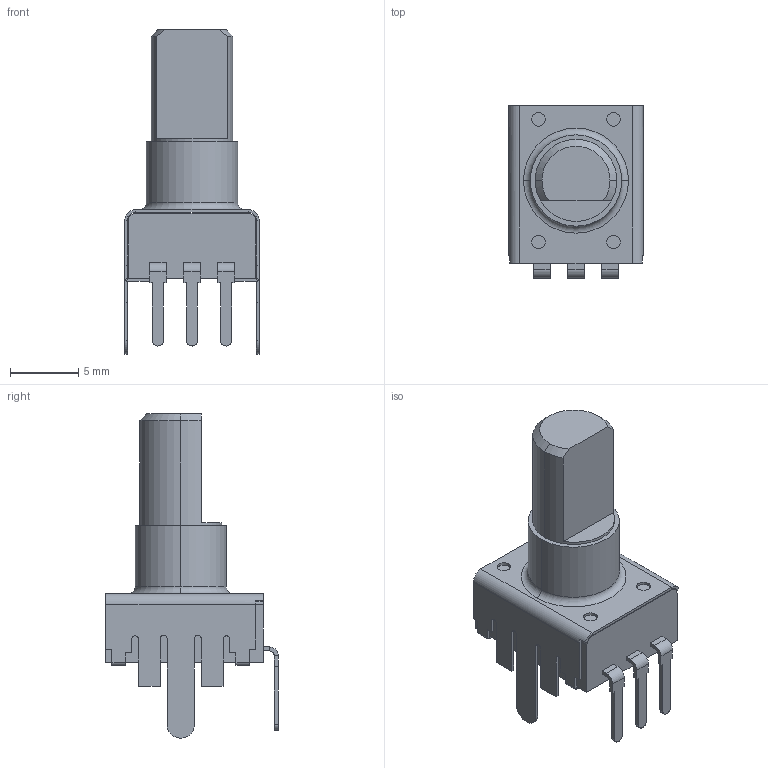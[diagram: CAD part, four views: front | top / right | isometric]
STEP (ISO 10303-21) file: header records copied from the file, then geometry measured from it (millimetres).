
FILE_DESCRIPTION (( 'STEP AP214' ), '1' );
FILE_NAME ('RES-TH_RK09K1130AAU.step', '2022-07-28T10:24:50', ( '' ), ( '' ), 'SwSTEP 2.0', 'SolidWorks 2020', '' );
FILE_SCHEMA (( 'AUTOMOTIVE_DESIGN' ));
Length unit declared in the file: millimetre
Products named in the file (1): RES-TH_RK09K1130AAU
Bounding box: 9.85 x 12.65 x 23.8 mm (x, y, z)
Volume: 935.6 mm3; surface area: 1286.7 mm2
Topology: 7 solids, 7 shells, 441 faces, 1137 edges, 730 vertices
Faces by surface type: plane 279, bspline 100, cylinder 57, cone 3, torus 2
Entity records: 18207 total; most frequent: CARTESIAN_POINT 3667, ORIENTED_EDGE 2274, DIRECTION 1734, EDGE_CURVE 1137, LINE 804, VECTOR 804, VERTEX_POINT 730, EDGE_LOOP 469
